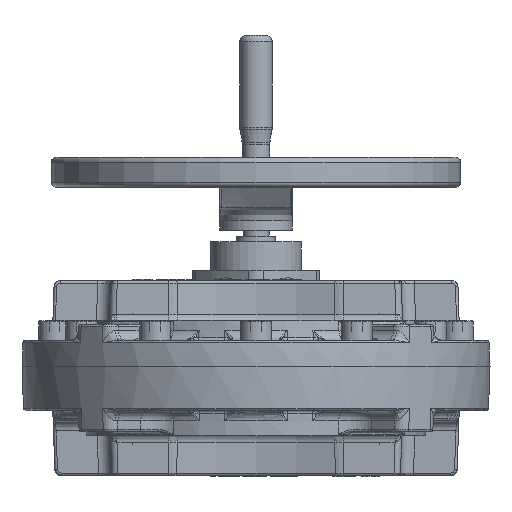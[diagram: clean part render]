
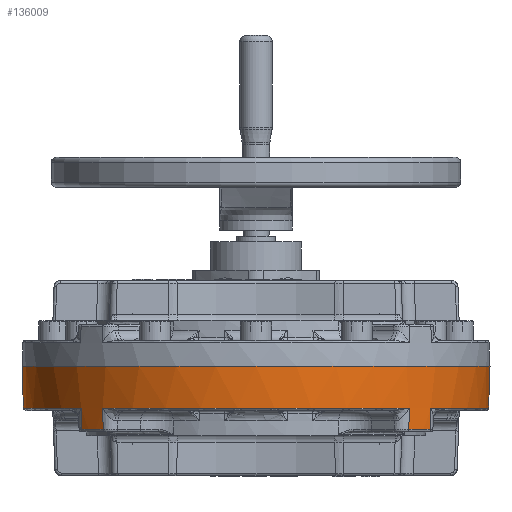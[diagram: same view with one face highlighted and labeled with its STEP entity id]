
A CAD part, front view. The second image highlights one B-rep face of the part: STEP entity #136009.
In plain terms, the highlighted conical face has half-angle 2 degrees and reference radius 180 mm.
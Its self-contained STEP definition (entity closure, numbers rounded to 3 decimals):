
#3621 = AXIS2_PLACEMENT_3D ( 'NONE', #96124, #28606, #107484 ) ;
#3944 = DIRECTION ( 'NONE',  ( 0., 0., 1. ) ) ;
#4580 = CARTESIAN_POINT ( 'NONE',  ( 135.339, -118.673, 0. ) ) ;
#5948 = ORIENTED_EDGE ( 'NONE', *, *, #77740, .T. ) ;
#6161 = AXIS2_PLACEMENT_3D ( 'NONE', #102951, #35423, #114246 ) ;
#8091 = CARTESIAN_POINT ( 'NONE',  ( -134.064, -117.555, -48.57 ) ) ;
#8125 = VERTEX_POINT ( 'NONE', #80742 ) ;
#12294 = DIRECTION ( 'NONE',  ( 0., 0., 1. ) ) ;
#13179 = ORIENTED_EDGE ( 'NONE', *, *, #35520, .T. ) ;
#13711 = LINE ( 'NONE', #4580, #66603 ) ;
#13728 = CIRCLE ( 'NONE', #16782, 178.304 ) ;
#14030 = CARTESIAN_POINT ( 'NONE',  ( -178.88, 0., -32.07 ) ) ;
#15220 = CARTESIAN_POINT ( 'NONE',  ( 0., 0., 0. ) ) ;
#16782 = AXIS2_PLACEMENT_3D ( 'NONE', #79809, #12294, #91113 ) ;
#17454 = CARTESIAN_POINT ( 'NONE',  ( -117.935, -134.497, -32.07 ) ) ;
#19992 = VERTEX_POINT ( 'NONE', #70761 ) ;
#20601 = ORIENTED_EDGE ( 'NONE', *, *, #51341, .T. ) ;
#20801 = VERTEX_POINT ( 'NONE', #82257 ) ;
#23013 = CIRCLE ( 'NONE', #48620, 178.304 ) ;
#23289 = DIRECTION ( 'NONE',  ( 0., 0., 1. ) ) ;
#23439 = ORIENTED_EDGE ( 'NONE', *, *, #95972, .T. ) ;
#28606 = DIRECTION ( 'NONE',  ( 0., 0., 1. ) ) ;
#34773 = EDGE_CURVE ( 'NONE', #102777, #140341, #37571, .T. ) ;
#34835 = CARTESIAN_POINT ( 'NONE',  ( -180., 0., 0. ) ) ;
#35423 = DIRECTION ( 'NONE',  ( 0., 0., 1. ) ) ;
#35520 = EDGE_CURVE ( 'NONE', #125946, #8125, #23013, .T. ) ;
#37571 = LINE ( 'NONE', #59882, #64050 ) ;
#43336 = VERTEX_POINT ( 'NONE', #130279 ) ;
#43667 = CARTESIAN_POINT ( 'NONE',  ( 180., 0., 0. ) ) ;
#47715 = CARTESIAN_POINT ( 'NONE',  ( -118.673, -135.339, 0. ) ) ;
#47874 = EDGE_CURVE ( 'NONE', #102777, #64316, #106539, .T. ) ;
#48620 = AXIS2_PLACEMENT_3D ( 'NONE', #90785, #23289, #102106 ) ;
#48789 = EDGE_CURVE ( 'NONE', #140341, #102281, #144780, .T. ) ;
#50113 = DIRECTION ( 'NONE',  ( 0., 0., 1. ) ) ;
#50222 = EDGE_CURVE ( 'NONE', #43336, #20801, #134263, .T. ) ;
#50476 = VECTOR ( 'NONE', #72671, 1000. ) ;
#51341 = EDGE_CURVE ( 'NONE', #19992, #92641, #123245, .T. ) ;
#55732 = DIRECTION ( 'NONE',  ( 0., 0., 1. ) ) ;
#59882 = CARTESIAN_POINT ( 'NONE',  ( -180., 0., 0. ) ) ;
#59976 = CONICAL_SURFACE ( 'NONE', #124759, 180., 0.035 ) ;
#60788 = ORIENTED_EDGE ( 'NONE', *, *, #47874, .T. ) ;
#62119 = CIRCLE ( 'NONE', #118289, 178.88 ) ;
#62497 = AXIS2_PLACEMENT_3D ( 'NONE', #123238, #55732, #134595 ) ;
#64050 = VECTOR ( 'NONE', #116077, 1000. ) ;
#64316 = VERTEX_POINT ( 'NONE', #114458 ) ;
#66603 = VECTOR ( 'NONE', #117379, 1000. ) ;
#70761 = CARTESIAN_POINT ( 'NONE',  ( 134.497, -117.935, -32.07 ) ) ;
#72671 = DIRECTION ( 'NONE',  ( -0.026, -0.023, 0.999 ) ) ;
#74073 = FACE_OUTER_BOUND ( 'NONE', #142041, .T. ) ;
#74970 = LINE ( 'NONE', #47715, #101425 ) ;
#77740 = EDGE_CURVE ( 'NONE', #92641, #102281, #124242, .T. ) ;
#78089 = VERTEX_POINT ( 'NONE', #17454 ) ;
#79698 = ORIENTED_EDGE ( 'NONE', *, *, #48789, .F. ) ;
#79809 = CARTESIAN_POINT ( 'NONE',  ( 0., 0., -48.57 ) ) ;
#80742 = CARTESIAN_POINT ( 'NONE',  ( -117.555, -134.064, -48.57 ) ) ;
#81276 = ORIENTED_EDGE ( 'NONE', *, *, #121880, .F. ) ;
#82257 = CARTESIAN_POINT ( 'NONE',  ( 117.935, -134.497, -32.07 ) ) ;
#90785 = CARTESIAN_POINT ( 'NONE',  ( 0., 0., -48.57 ) ) ;
#91113 = DIRECTION ( 'NONE',  ( 1., 0., 0. ) ) ;
#91302 = CARTESIAN_POINT ( 'NONE',  ( 118.673, -135.339, 0. ) ) ;
#92641 = VERTEX_POINT ( 'NONE', #96491 ) ;
#94523 = DIRECTION ( 'NONE',  ( -1., 0., 0. ) ) ;
#95972 = EDGE_CURVE ( 'NONE', #144267, #19992, #13711, .T. ) ;
#96124 = CARTESIAN_POINT ( 'NONE',  ( 0., 0., 0. ) ) ;
#96491 = CARTESIAN_POINT ( 'NONE',  ( 178.88, 0., -32.07 ) ) ;
#98874 = ORIENTED_EDGE ( 'NONE', *, *, #110197, .T. ) ;
#101110 = EDGE_CURVE ( 'NONE', #8125, #78089, #74970, .T. ) ;
#101273 = CARTESIAN_POINT ( 'NONE',  ( 134.064, -117.555, -48.57 ) ) ;
#101425 = VECTOR ( 'NONE', #126550, 1000. ) ;
#102106 = DIRECTION ( 'NONE',  ( 1., 0., 0. ) ) ;
#102281 = VERTEX_POINT ( 'NONE', #136980 ) ;
#102777 = VERTEX_POINT ( 'NONE', #14030 ) ;
#102951 = CARTESIAN_POINT ( 'NONE',  ( 0., 0., -32.07 ) ) ;
#104242 = VECTOR ( 'NONE', #114448, 1000. ) ;
#105235 = ORIENTED_EDGE ( 'NONE', *, *, #34773, .F. ) ;
#106539 = CIRCLE ( 'NONE', #6161, 178.88 ) ;
#107484 = DIRECTION ( 'NONE',  ( 1., 0., 0. ) ) ;
#110197 = EDGE_CURVE ( 'NONE', #43336, #144267, #13728, .T. ) ;
#110353 = LINE ( 'NONE', #140284, #50476 ) ;
#111188 = DIRECTION ( 'NONE',  ( 0.035, 0., 0.999 ) ) ;
#114246 = DIRECTION ( 'NONE',  ( 1., 0., 0. ) ) ;
#114448 = DIRECTION ( 'NONE',  ( 0.023, -0.026, 0.999 ) ) ;
#114458 = CARTESIAN_POINT ( 'NONE',  ( -134.497, -117.935, -32.07 ) ) ;
#115707 = ORIENTED_EDGE ( 'NONE', *, *, #101110, .T. ) ;
#116077 = DIRECTION ( 'NONE',  ( -0.035, 0., 0.999 ) ) ;
#117379 = DIRECTION ( 'NONE',  ( 0.026, -0.023, 0.999 ) ) ;
#117541 = CARTESIAN_POINT ( 'NONE',  ( 0., 0., -32.07 ) ) ;
#118289 = AXIS2_PLACEMENT_3D ( 'NONE', #117541, #50113, #128889 ) ;
#120704 = VECTOR ( 'NONE', #111188, 1000. ) ;
#121880 = EDGE_CURVE ( 'NONE', #125946, #64316, #110353, .T. ) ;
#123238 = CARTESIAN_POINT ( 'NONE',  ( 0., 0., -32.07 ) ) ;
#123245 = CIRCLE ( 'NONE', #62497, 178.88 ) ;
#124242 = LINE ( 'NONE', #43667, #120704 ) ;
#124759 = AXIS2_PLACEMENT_3D ( 'NONE', #15220, #3944, #94523 ) ;
#125946 = VERTEX_POINT ( 'NONE', #8091 ) ;
#126550 = DIRECTION ( 'NONE',  ( -0.023, -0.026, 0.999 ) ) ;
#128889 = DIRECTION ( 'NONE',  ( 1., 0., 0. ) ) ;
#130279 = CARTESIAN_POINT ( 'NONE',  ( 117.555, -134.064, -48.57 ) ) ;
#134263 = LINE ( 'NONE', #91302, #104242 ) ;
#134595 = DIRECTION ( 'NONE',  ( 1., 0., 0. ) ) ;
#136009 = ADVANCED_FACE ( 'NONE', ( #74073 ), #59976, .T. ) ;
#136980 = CARTESIAN_POINT ( 'NONE',  ( 180., 0., 0. ) ) ;
#140284 = CARTESIAN_POINT ( 'NONE',  ( -135.339, -118.673, 0. ) ) ;
#140341 = VERTEX_POINT ( 'NONE', #34835 ) ;
#141472 = ORIENTED_EDGE ( 'NONE', *, *, #50222, .F. ) ;
#142041 = EDGE_LOOP ( 'NONE', ( #20601, #5948, #79698, #105235, #60788, #81276, #13179, #115707, #143255, #141472, #98874, #23439 ) ) ;
#143255 = ORIENTED_EDGE ( 'NONE', *, *, #146044, .T. ) ;
#144267 = VERTEX_POINT ( 'NONE', #101273 ) ;
#144780 = CIRCLE ( 'NONE', #3621, 180. ) ;
#146044 = EDGE_CURVE ( 'NONE', #78089, #20801, #62119, .T. ) ;
